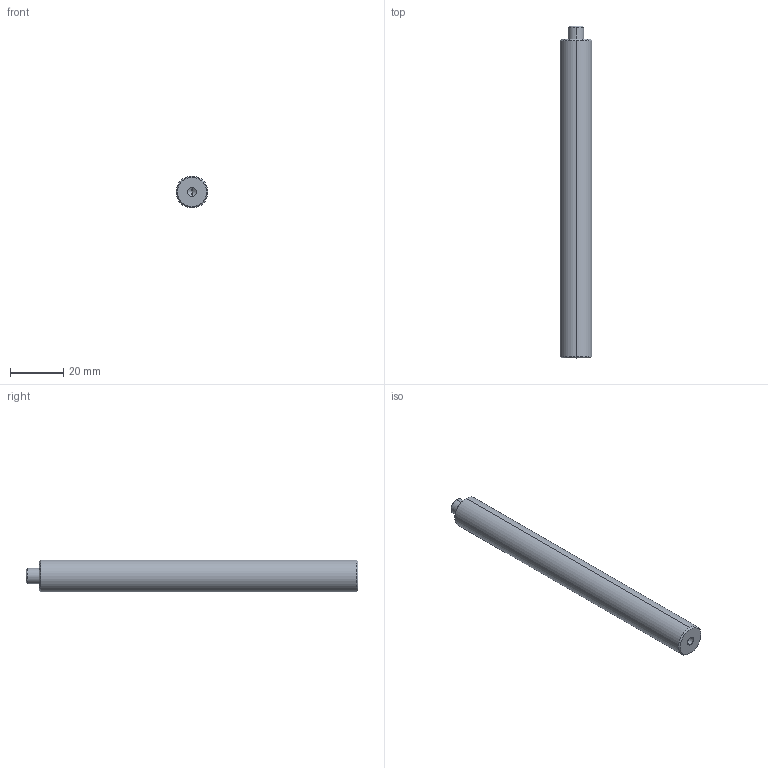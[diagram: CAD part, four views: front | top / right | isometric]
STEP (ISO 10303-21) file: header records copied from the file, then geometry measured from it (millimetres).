
FILE_DESCRIPTION (( 'STEP AP203' ), '1' );
FILE_NAME ('(STEP)M-PDJ12-120.STEP', '2020-04-01T09:19:01', ( '' ), ( '' ), 'SwSTEP 2.0', 'SolidWorks 2019', '' );
FILE_SCHEMA (( 'CONFIG_CONTROL_DESIGN' ));
Length unit declared in the file: millimetre
Products named in the file (1): (STEP)M-PDJ12-120
Bounding box: 12 x 125 x 12 mm (x, y, z)
Volume: 13612.5 mm3; surface area: 4921.9 mm2
Topology: 1 solids, 1 shells, 17 faces, 34 edges, 19 vertices
Faces by surface type: cone 8, cylinder 6, plane 3
Entity records: 505 total; most frequent: DIRECTION 86, CARTESIAN_POINT 69, ORIENTED_EDGE 64, AXIS2_PLACEMENT_3D 36, EDGE_CURVE 32, VERTEX_POINT 19, EDGE_LOOP 19, CIRCLE 18
